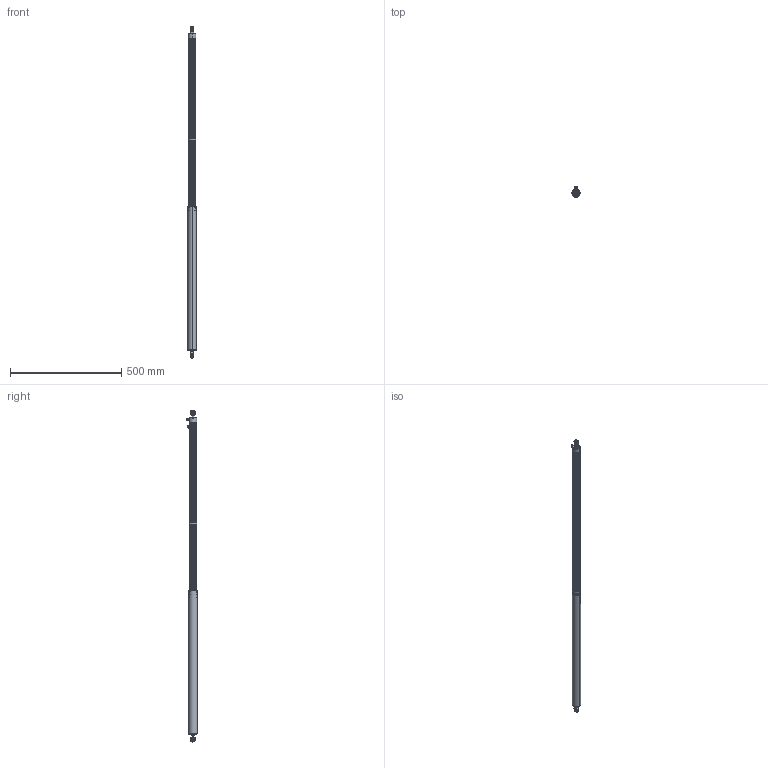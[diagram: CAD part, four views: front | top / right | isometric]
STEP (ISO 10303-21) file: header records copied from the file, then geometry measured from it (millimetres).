
FILE_DESCRIPTION (( 'STEP AP214' ), '1' );
FILE_NAME ('0600.STEP', '2009-01-27T10:17:54', ( 'novotechnik' ), ( 'novotechnik' ), 'SwSTEP 2.0', 'SolidWorks 2009', '' );
FILE_SCHEMA (( 'AUTOMOTIVE_DESIGN' ));
Length unit declared in the file: millimetre
Products named in the file (3): 0600; 0600_Bew
Assembly tree (2 placements, depth 2):
  0600
    0600_Bew
    0600
Bounding box: 38 x 46.6 x 1493.6 mm (x, y, z)
Volume: 904540.9 mm3; surface area: 314789.8 mm2
Topology: 34 solids, 34 shells, 1092 faces, 2750 edges, 1748 vertices
Faces by surface type: cylinder 451, plane 338, cone 173, bspline 70, torus 42, sphere 18
Entity records: 48018 total; most frequent: CARTESIAN_POINT 9403, DIRECTION 5760, ORIENTED_EDGE 5486, EDGE_CURVE 2743, AXIS2_PLACEMENT_3D 2278, VERTEX_POINT 1745, CIRCLE 1251, VECTOR 1204
